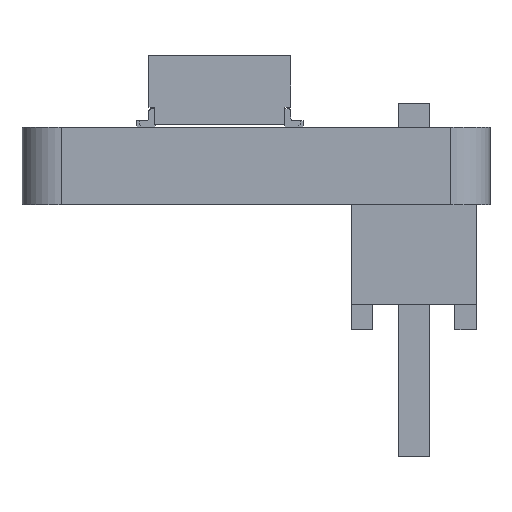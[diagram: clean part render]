
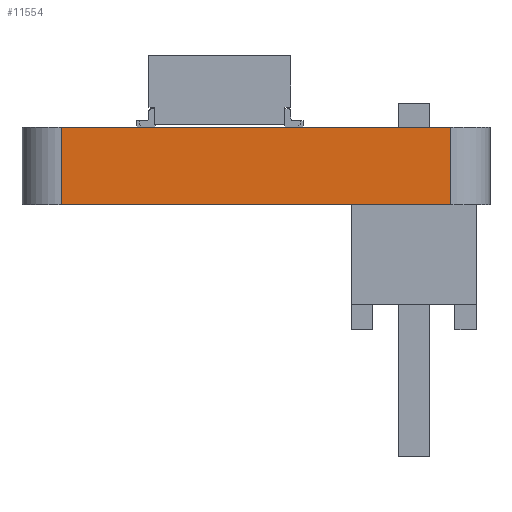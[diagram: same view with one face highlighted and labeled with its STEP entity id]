
A CAD part, left-side view. The second image highlights one B-rep face of the part: STEP entity #11554.
In plain terms, the highlighted planar face has unit normal (-1, 0, 0) as drawn and (0, -1, 0) by its records, which use the part's own axes.
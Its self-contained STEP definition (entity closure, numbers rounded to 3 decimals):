
#428 = CARTESIAN_POINT ( 'NONE',  ( -18.156, -6.012, 0. ) ) ;
#848 = CARTESIAN_POINT ( 'NONE',  ( -18.156, -6.012, 1.575 ) ) ;
#1181 = DIRECTION ( 'NONE',  ( 0., 0., -1. ) ) ;
#1510 = VERTEX_POINT ( 'NONE', #3816 ) ;
#1678 = EDGE_CURVE ( 'NONE', #16597, #18358, #13468, .T. ) ;
#2022 = ORIENTED_EDGE ( 'NONE', *, *, #17232, .F. ) ;
#2108 = VECTOR ( 'NONE', #18488, 1000. ) ;
#2488 = DIRECTION ( 'NONE',  ( 0., 0., -1. ) ) ;
#2706 = AXIS2_PLACEMENT_3D ( 'NONE', #15104, #16529, #18246 ) ;
#2912 = CARTESIAN_POINT ( 'NONE',  ( -18.156, -6.012, 1.575 ) ) ;
#3816 = CARTESIAN_POINT ( 'NONE',  ( -10.256, -6.012, 1.575 ) ) ;
#3857 = EDGE_LOOP ( 'NONE', ( #18915, #2022, #5599, #9067 ) ) ;
#4119 = PLANE ( 'NONE',  #2706 ) ;
#4167 = CARTESIAN_POINT ( 'NONE',  ( -10.256, -6.012, 0. ) ) ;
#5599 = ORIENTED_EDGE ( 'NONE', *, *, #17166, .F. ) ;
#7326 = VECTOR ( 'NONE', #1181, 1000. ) ;
#7423 = LINE ( 'NONE', #2912, #2108 ) ;
#8937 = VECTOR ( 'NONE', #2488, 1000. ) ;
#9067 = ORIENTED_EDGE ( 'NONE', *, *, #1678, .T. ) ;
#11554 = ADVANCED_FACE ( 'NONE', ( #12882 ), #4119, .F. ) ;
#12152 = LINE ( 'NONE', #12255, #7326 ) ;
#12255 = CARTESIAN_POINT ( 'NONE',  ( -10.256, -6.012, 1.575 ) ) ;
#12381 = VERTEX_POINT ( 'NONE', #4167 ) ;
#12882 = FACE_OUTER_BOUND ( 'NONE', #3857, .T. ) ;
#13381 = EDGE_CURVE ( 'NONE', #18358, #12381, #17809, .T. ) ;
#13468 = LINE ( 'NONE', #848, #8937 ) ;
#13819 = CARTESIAN_POINT ( 'NONE',  ( -18.156, -6.012, 0. ) ) ;
#14363 = CARTESIAN_POINT ( 'NONE',  ( -18.156, -6.012, 1.575 ) ) ;
#14425 = VECTOR ( 'NONE', #16979, 1000. ) ;
#15104 = CARTESIAN_POINT ( 'NONE',  ( -18.156, -6.012, 1.575 ) ) ;
#16529 = DIRECTION ( 'NONE',  ( 0., 1., 0. ) ) ;
#16597 = VERTEX_POINT ( 'NONE', #14363 ) ;
#16979 = DIRECTION ( 'NONE',  ( 1., 0., 0. ) ) ;
#17166 = EDGE_CURVE ( 'NONE', #16597, #1510, #7423, .T. ) ;
#17232 = EDGE_CURVE ( 'NONE', #1510, #12381, #12152, .T. ) ;
#17809 = LINE ( 'NONE', #13819, #14425 ) ;
#18246 = DIRECTION ( 'NONE',  ( -1., 0., 0. ) ) ;
#18358 = VERTEX_POINT ( 'NONE', #428 ) ;
#18488 = DIRECTION ( 'NONE',  ( 1., 0., 0. ) ) ;
#18915 = ORIENTED_EDGE ( 'NONE', *, *, #13381, .T. ) ;
